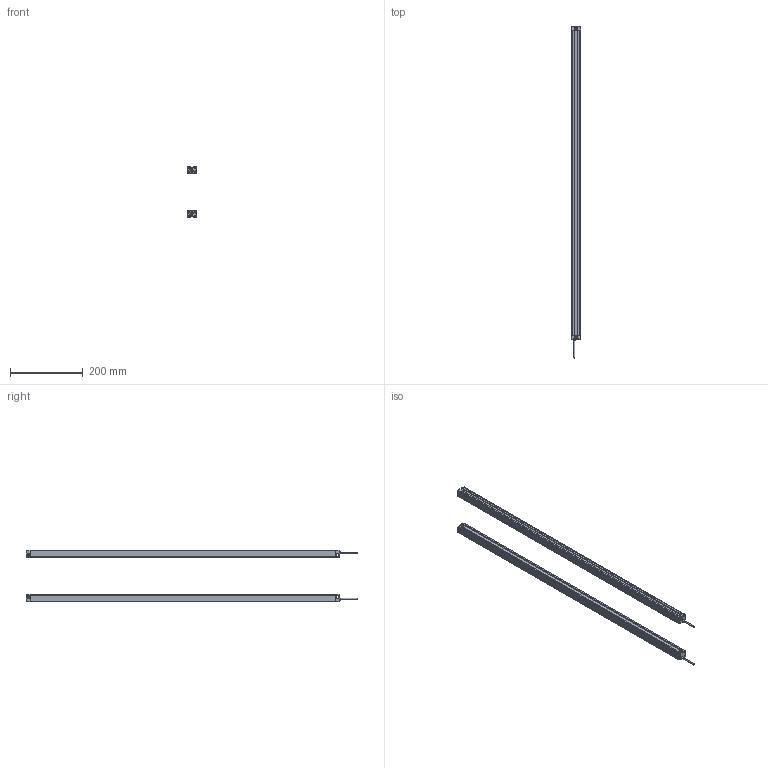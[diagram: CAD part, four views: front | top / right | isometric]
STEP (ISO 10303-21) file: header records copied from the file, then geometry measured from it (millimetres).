
FILE_DESCRIPTION (( 'STEP AP214' ), '1' );
FILE_NAME ('MTC4220.STEP', '2022-08-02T09:04:12', ( '' ), ( '' ), 'SwSTEP 2.0', 'SolidWorks 2018', '' );
FILE_SCHEMA (( 'AUTOMOTIVE_DESIGN' ));
Length unit declared in the file: millimetre
Products named in the file (5): 噩砃P02^MTC; P01^MTC; MTC waike^MTC; P02^MTC; MTC4220
Assembly tree (6 placements, depth 2):
  MTC4220
    MTC waike^MTC  x2
    P01^MTC  x2
    P02^MTC
    噩砃P02^MTC
Bounding box: 25 x 912 x 141.4 mm (x, y, z)
Volume: 285639.2 mm3; surface area: 394025.8 mm2
Topology: 8 solids, 8 shells, 480 faces, 1396 edges, 924 vertices
Faces by surface type: plane 272, cylinder 208
Entity records: 10886 total; most frequent: DIRECTION 1881, CARTESIAN_POINT 1878, ORIENTED_EDGE 1846, EDGE_CURVE 923, AXIS2_PLACEMENT_3D 637, VERTEX_POINT 610, LINE 607, VECTOR 607
